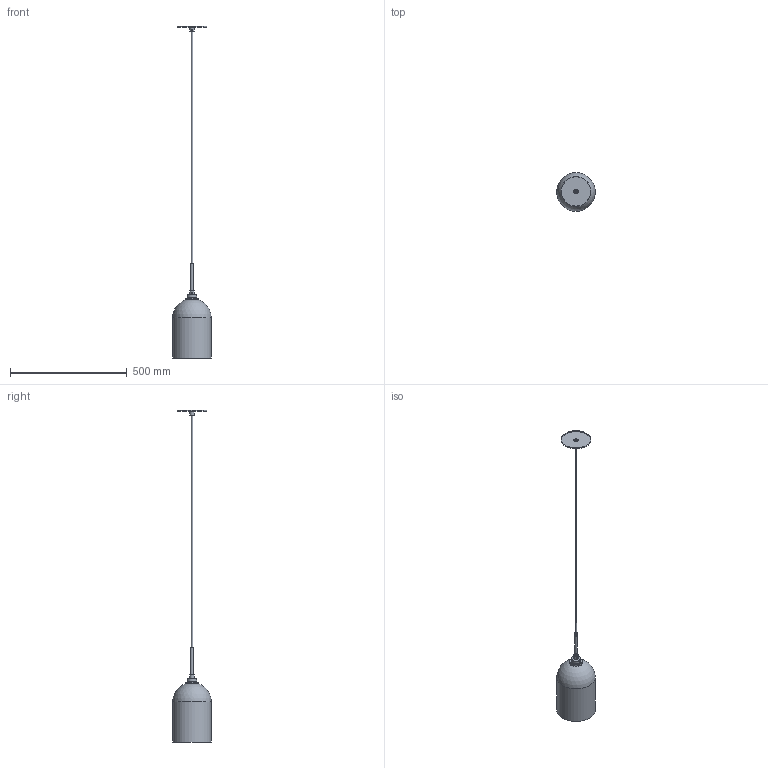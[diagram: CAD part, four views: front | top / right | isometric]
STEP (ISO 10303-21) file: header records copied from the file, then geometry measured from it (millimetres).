
FILE_DESCRIPTION(/* description */ (''),/* implementation_level */ '2;1');
FILE_NAME(/* name */ 'C:/Users/zach/Niche/Product Development - Documents/CAD Models/Pendants/Cloche Series/CAD Drawings/Cloche/Glass - Luxe Hardware/Niche - Cloche Pendant.step',/* time_stamp */ '2022-06-22T10:42:58-04:00',/* author */ (''),/* organization */ (''),/* preprocessor_version */ 'ST-DEVELOPER v19',/* originating_system */ 'Autodesk Translation Framework v11.7.0.108',/* authorisation */ '');
FILE_SCHEMA (('AUTOMOTIVE_DESIGN { 1 0 10303 214 3 1 1 }'));
Length unit declared in the file: inch
Products named in the file (1): Cloche
Bounding box: 165.1 x 165.1 x 1422.44 mm (x, y, z)
Volume: 683094.3 mm3; surface area: 369798.8 mm2
Topology: 12 solids, 12 shells, 232 faces, 602 edges, 400 vertices
Faces by surface type: cylinder 156, plane 59, bspline 11, sphere 3, cone 3
Full cylindrical faces by diameter (mm): 4.355 x4, 4.529 x1, 4.927 x9, 5.08 x1, 6.096 x1, 6.35 x1, 6.5 x1, 7.62 x1, 7.744 x7, 8.036 x15, 8.852 x1, 8.884 x8, 9.035 x1, 9.146 x11, 10.16 x1, 12.7 x2, 19.05 x1, 19.2 x1, 25.4 x1, 26.022 x1, 34.97 x1, 35.052 x9, 37.85 x8, 39 x1, 39.35 x1, 41.035 x1, 41.2 x1, 41.884 x1, 44 x1, 44.45 x1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
Entity records: 17226 total; most frequent: CARTESIAN_POINT 11947, ORIENTED_EDGE 1202, DIRECTION 860, EDGE_CURVE 601, VERTEX_POINT 400, AXIS2_PLACEMENT_3D 321, B_SPLINE_CURVE_WITH_KNOTS 284, EDGE_LOOP 263
